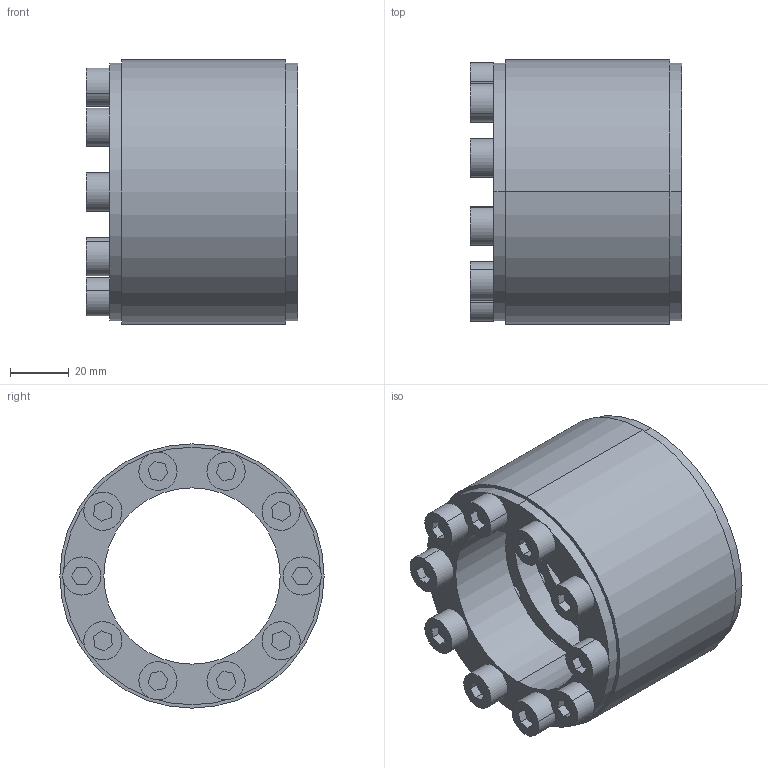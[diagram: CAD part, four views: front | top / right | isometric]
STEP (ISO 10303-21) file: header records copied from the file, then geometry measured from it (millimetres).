
FILE_DESCRIPTION (( 'STEP AP203' ), '1' );
FILE_NAME ('SF-60.STEP', '2009-09-29T17:16:11', ( 'USER' ), ( 'HOME' ), 'SwSTEP 2.0', 'SolidWorks 2007', '' );
FILE_SCHEMA (( 'CONFIG_CONTROL_DESIGN' ));
Length unit declared in the file: millimetre
Products named in the file (1): SF-60
Bounding box: 72 x 90 x 90 mm (x, y, z)
Volume: 209782.6 mm3; surface area: 77872.4 mm2
Topology: 11 solids, 11 shells, 224 faces, 528 edges, 352 vertices
Faces by surface type: cylinder 116, plane 108
Entity records: 6705 total; most frequent: DIRECTION 1210, CARTESIAN_POINT 1105, ORIENTED_EDGE 1056, EDGE_CURVE 528, AXIS2_PLACEMENT_3D 457, VERTEX_POINT 352, EDGE_LOOP 312, VECTOR 296
